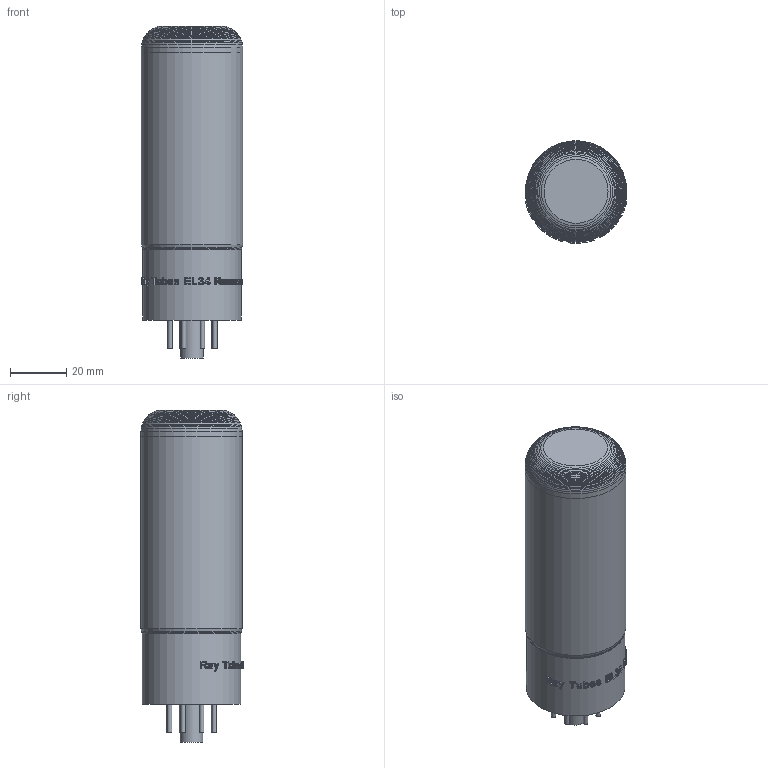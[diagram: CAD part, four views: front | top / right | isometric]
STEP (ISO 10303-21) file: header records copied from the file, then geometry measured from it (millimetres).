
FILE_DESCRIPTION(('Open CASCADE Model'),'2;1');
FILE_NAME('Open CASCADE Shape Model','2026-06-14T20:31:10',('Author'),( 'Open CASCADE'),'Open CASCADE STEP processor 7.8','Open CASCADE 7.8' ,'Unknown');
FILE_SCHEMA(('AUTOMOTIVE_DESIGN { 1 0 10303 214 1 1 1 1 }'));
Length unit declared in the file: millimetre
Products named in the file (6): Ray_Tubes_EL34_Reserve_from_DXF_mm; Socket_layer; Socket_key_layer; Glas_layer; Pin_layer; Model_label_layer
Assembly tree (5 placements, depth 2):
  Ray_Tubes_EL34_Reserve_from_DXF_mm
    Socket_layer
    Socket_key_layer
    Glas_layer
    Pin_layer
    Model_label_layer
Bounding box: 36.04 x 36.33 x 118 mm (x, y, z)
Volume: 104435.4 mm3; surface area: 16303.7 mm2
Topology: 30 solids, 30 shells, 486 faces, 1250 edges, 824 vertices
Faces by surface type: extrusion 269, plane 178, cone 28, cylinder 11
Full cylindrical faces by diameter (mm): 1.6 x8, 8 x1, 35 x1, 36 x1
Entity records: 15296 total; most frequent: CARTESIAN_POINT 4180, ORIENTED_EDGE 2500, DIRECTION 1477, EDGE_CURVE 1250, VECTOR 931, VERTEX_POINT 824, B_SPLINE_CURVE_WITH_KNOTS 807, LINE 662
